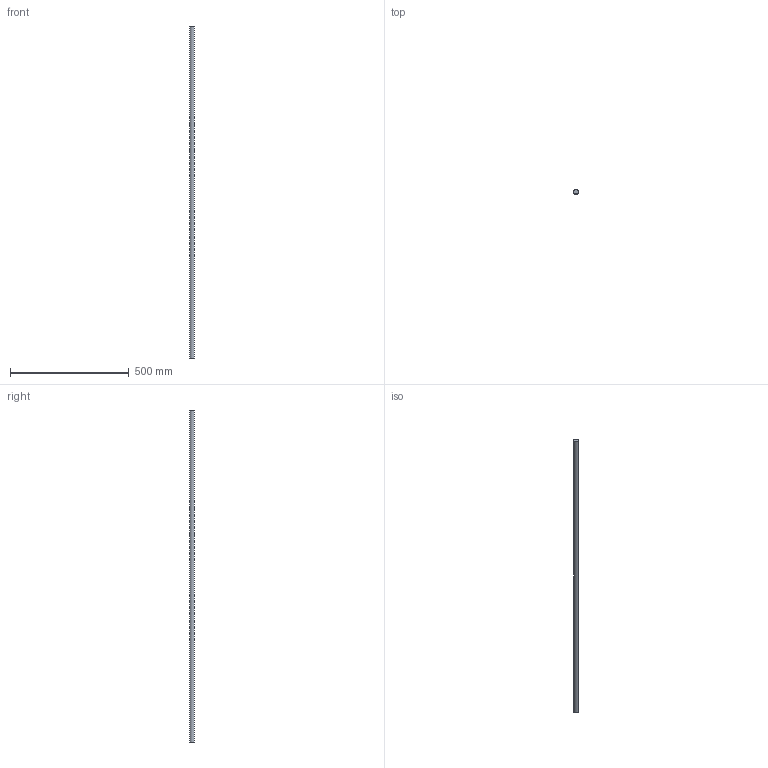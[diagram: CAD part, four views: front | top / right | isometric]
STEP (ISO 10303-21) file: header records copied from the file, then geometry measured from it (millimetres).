
FILE_DESCRIPTION(/* description */ (''),/* implementation_level */ '2;1');
FILE_NAME(/* name */ 'C:\Users\David\Desktop\stepFiles\Profilfuehrung\WF20x1400.stp',/* time_stamp */ '2018-06-24T15:49:05+02:00',/* author */ ('David'),/* organization */ (''),/* preprocessor_version */ 'ST-DEVELOPER v17',/* originating_system */ 'Autodesk Inventor 2019',/* authorisation */ '');
FILE_SCHEMA (('AUTOMOTIVE_DESIGN { 1 0 10303 214 3 1 1 }'));
Length unit declared in the file: millimetre
Products named in the file (1): Wellenfuehrung
Bounding box: 20 x 20 x 1400 mm (x, y, z)
Volume: 439823 mm3; surface area: 88592.9 mm2
Topology: 1 solids, 1 shells, 3 faces, 3 edges, 2 vertices
Faces by surface type: plane 2, cylinder 1
Full cylindrical faces by diameter (mm): 20 x1
Entity records: 98 total; most frequent: DIRECTION 13, CARTESIAN_POINT 9, ORIENTED_EDGE 6, AXIS2_PLACEMENT_3D 6, FACE_OUTER_BOUND 3, EDGE_LOOP 3, EDGE_CURVE 3, ADVANCED_FACE 3
